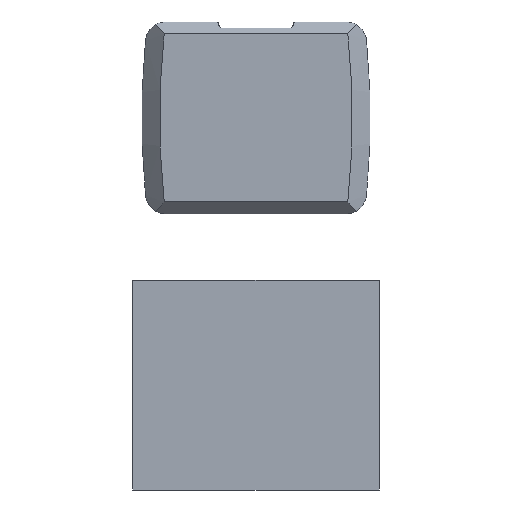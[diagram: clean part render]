
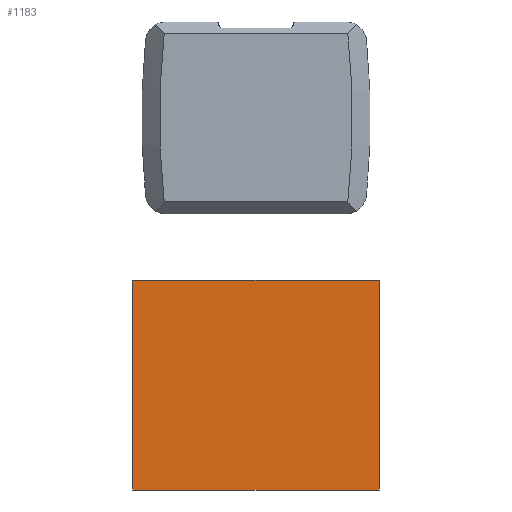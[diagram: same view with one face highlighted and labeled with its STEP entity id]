
A CAD part, front view. The second image highlights one B-rep face of the part: STEP entity #1183.
In plain terms, the highlighted planar face has unit normal (0, -1, 0).
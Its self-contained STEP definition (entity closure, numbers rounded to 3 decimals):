
#96 = EDGE_CURVE ( 'NONE', #581, #1012, #1689, .T. ) ;
#112 = CARTESIAN_POINT ( 'NONE',  ( 207.5, -15., -273.5 ) ) ;
#140 = LINE ( 'NONE', #1380, #1568 ) ;
#166 = VERTEX_POINT ( 'NONE', #1498 ) ;
#198 = CARTESIAN_POINT ( 'NONE',  ( 151.205, -15., -323.5 ) ) ;
#381 = EDGE_CURVE ( 'NONE', #1012, #166, #597, .T. ) ;
#530 = EDGE_CURVE ( 'NONE', #166, #669, #798, .T. ) ;
#581 = VERTEX_POINT ( 'NONE', #1513 ) ;
#597 = LINE ( 'NONE', #1501, #664 ) ;
#638 = AXIS2_PLACEMENT_3D ( 'NONE', #198, #1159, #1033 ) ;
#642 = DIRECTION ( 'NONE',  ( 1., 0., 0. ) ) ;
#664 = VECTOR ( 'NONE', #642, 1000. ) ;
#669 = VERTEX_POINT ( 'NONE', #1536 ) ;
#798 = LINE ( 'NONE', #112, #1148 ) ;
#885 = ORIENTED_EDGE ( 'NONE', *, *, #96, .T. ) ;
#930 = ORIENTED_EDGE ( 'NONE', *, *, #530, .T. ) ;
#959 = DIRECTION ( 'NONE',  ( 0., 0., 1. ) ) ;
#1012 = VERTEX_POINT ( 'NONE', #1639 ) ;
#1033 = DIRECTION ( 'NONE',  ( 0., 0., 1. ) ) ;
#1062 = VECTOR ( 'NONE', #1196, 1000. ) ;
#1115 = ORIENTED_EDGE ( 'NONE', *, *, #1525, .T. ) ;
#1148 = VECTOR ( 'NONE', #959, 1000. ) ;
#1159 = DIRECTION ( 'NONE',  ( 0., 1., 0. ) ) ;
#1176 = PLANE ( 'NONE',  #638 ) ;
#1183 = ADVANCED_FACE ( 'NONE', ( #1314 ), #1176, .F. ) ;
#1196 = DIRECTION ( 'NONE',  ( 0., 0., -1. ) ) ;
#1314 = FACE_OUTER_BOUND ( 'NONE', #1770, .T. ) ;
#1368 = ORIENTED_EDGE ( 'NONE', *, *, #381, .T. ) ;
#1380 = CARTESIAN_POINT ( 'NONE',  ( -207.5, -15., -273.5 ) ) ;
#1498 = CARTESIAN_POINT ( 'NONE',  ( 207.5, -15., -626.5 ) ) ;
#1501 = CARTESIAN_POINT ( 'NONE',  ( -207.5, -15., -626.5 ) ) ;
#1509 = DIRECTION ( 'NONE',  ( -1., 0., 0. ) ) ;
#1513 = CARTESIAN_POINT ( 'NONE',  ( -207.5, -15., -273.5 ) ) ;
#1525 = EDGE_CURVE ( 'NONE', #669, #581, #140, .T. ) ;
#1536 = CARTESIAN_POINT ( 'NONE',  ( 207.5, -15., -273.5 ) ) ;
#1568 = VECTOR ( 'NONE', #1509, 1000. ) ;
#1597 = CARTESIAN_POINT ( 'NONE',  ( -207.5, -15., -273.5 ) ) ;
#1639 = CARTESIAN_POINT ( 'NONE',  ( -207.5, -15., -626.5 ) ) ;
#1689 = LINE ( 'NONE', #1597, #1062 ) ;
#1770 = EDGE_LOOP ( 'NONE', ( #930, #1115, #885, #1368 ) ) ;
